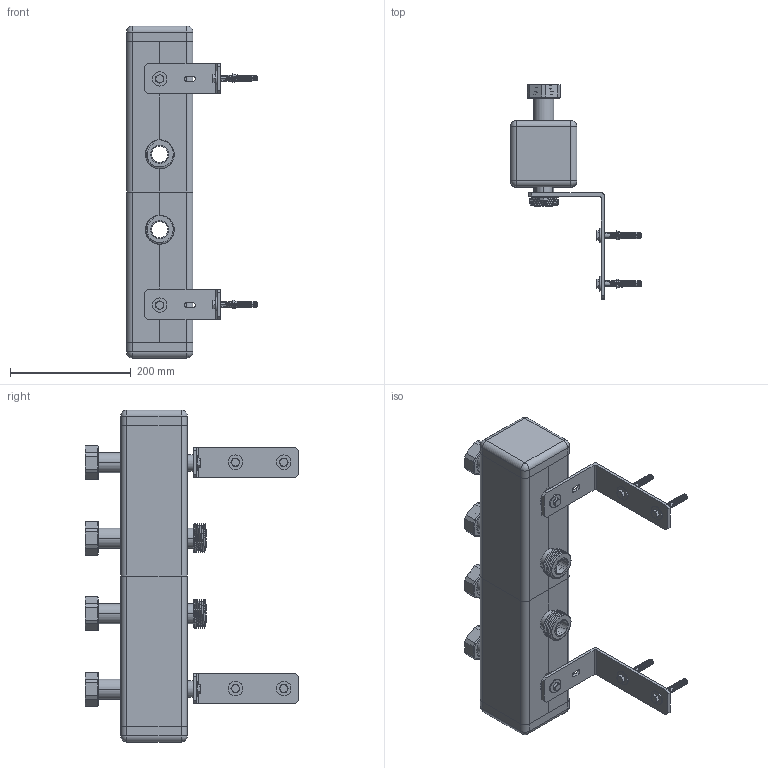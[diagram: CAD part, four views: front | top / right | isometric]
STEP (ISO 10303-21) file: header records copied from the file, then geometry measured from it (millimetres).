
FILE_DESCRIPTION((''),'2;1');
FILE_NAME('08_013_202_ASM','2021-04-14T',('Bial5'),('Audax d.o.o.'),'CREO PARAMETRIC BY PTC INC, 2017020','CREO PARAMETRIC BY PTC INC, 2017020','');
FILE_SCHEMA(('CONFIG_CONTROL_DESIGN'));
Length unit declared in the file: millimetre
Products named in the file (24): 08_013_006; 08_013_007; 08_013_004; 08_001_025; 08_013_020; 08_001_017; 08_001_018; 08_001_006; 08_013_021; 08_013_015; 08_001_038; 08_013_017; 08_013_022; 08_001_033; DIN9021-8; SCREW_DIN_933-M8X25-8_8-A; GUMA_NOSILCA_M8; DIN571_8X60_CUZN; ZIDNI_VLOZEK_10; 08_001_033_SESTAVLJEN_ASM; 08_001_042; 08_001_044; 08_013_200_IZOLACIJA_ASM; 08_013_202_ASM
Assembly tree (51 placements, depth 3):
  08_013_202_ASM
    08_013_006
    08_013_007
    08_013_004
    08_001_025  x2
    08_013_020  x2
    08_001_017  x4
    08_001_018  x4
    08_001_006  x2
    08_013_021  x2
    08_013_015
    08_001_038  x4
    08_013_017  x4
    08_013_022  x4
    08_001_033_SESTAVLJEN_ASM  x2
      08_001_033
      DIN9021-8
      SCREW_DIN_933-M8X25-8_8-A
      GUMA_NOSILCA_M8
      DIN571_8X60_CUZN
      ZIDNI_VLOZEK_10
    08_013_200_IZOLACIJA_ASM
      08_001_042  x2
      08_001_044  x4
Bounding box: 216.91 x 354 x 550 mm (x, y, z)
Volume: 5230933.2 mm3; surface area: 1114098.5 mm2
Topology: 58 solids, 60 shells, 3936 faces, 11268 edges, 7432 vertices
Faces by surface type: cylinder 1808, plane 1220, cone 788, torus 68, bspline 28, extrusion 16, sphere 8
Entity records: 51987 total; most frequent: CARTESIAN_POINT 20859, ORIENTED_EDGE 6540, DIRECTION 6527, EDGE_CURVE 3272, AXIS2_PLACEMENT_3D 2616, VERTEX_POINT 2148, CIRCLE 1358, VECTOR 1295
